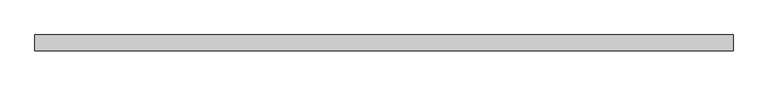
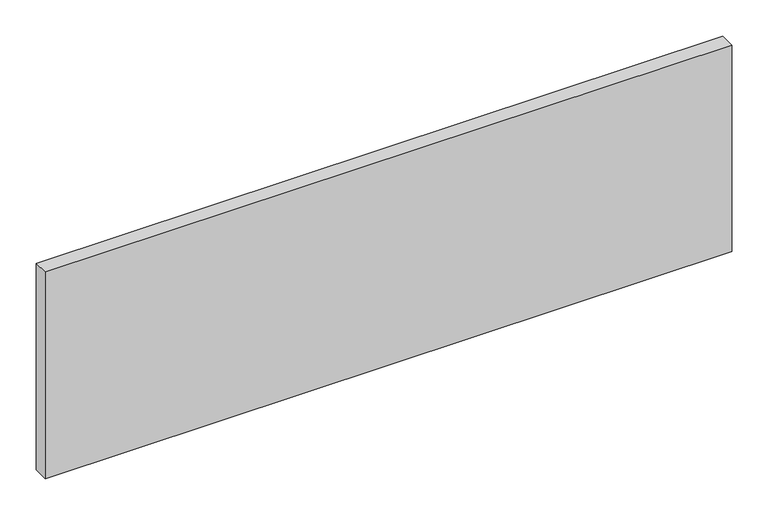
"""IFC4 building model written with IfcOpenShell, lengths in millimetres: plate geometry, 系统嵌板 : 玻璃."""

from ifc_helpers import new_model, si_unit, origin, origin_with_axes, place, context, project, spatial, polyline, outline, extrude, source, transform, mapped, element, save


def plate_5becea1c(model_context):
    return source(origin(), model_context, "Body", "SweptSolid", [
        extrude(outline(polyline([(550.0, -12.5), (-550.0, -12.5), (-550.0, 12.5), (550.0, 12.5), (550.0, -12.5)])), origin_with_axes(), (0.0, 0.0, 1.0), 350.0),
    ])


if __name__ == "__main__":
    model = new_model("IFC4")
    model_context = context("Model", 3, world=origin())
    ifc_project = project(units=[si_unit("LENGTHUNIT", "METRE", prefix="MILLI")], contexts=[model_context])
    site = spatial("IfcSite", under=ifc_project)
    building = spatial("IfcBuilding", under=site)
    placement = place(None, origin())
    plate_shape = plate_5becea1c(model_context)
    element("IfcPlate", 1, ObjectType="系统嵌板 : 玻璃", at=placement, inside=building, context=model_context, shape_type="MappedRepresentation", body=[
        mapped(plate_shape, transform((0.0, 0.0, 0.0), x_axis=(1.0, 0.0, 0.0), y_axis=(0.0, 1.0, 0.0), z_axis=(0.0, 0.0, 1.0))),
    ])
    save(model, "model.ifc")
